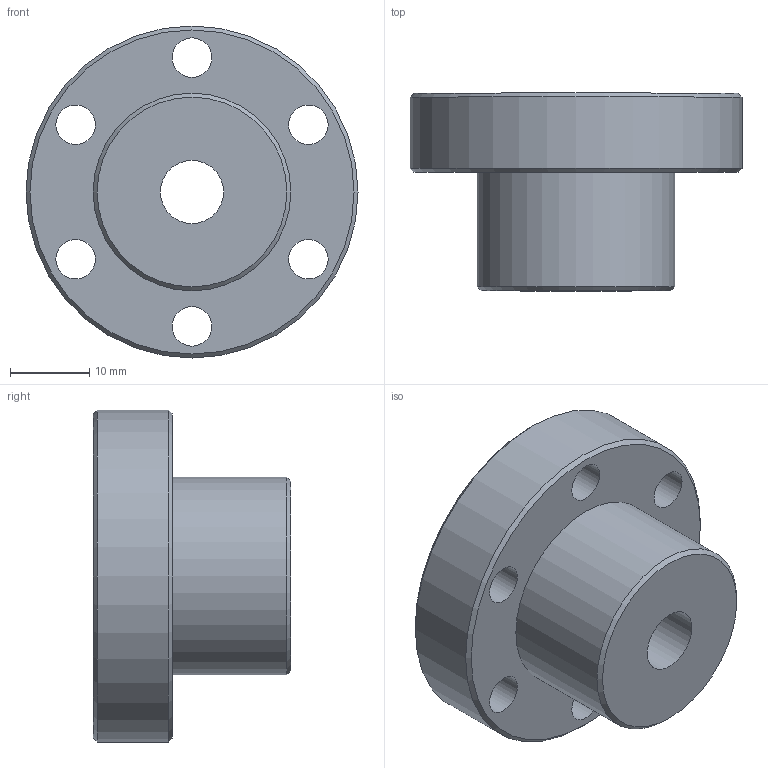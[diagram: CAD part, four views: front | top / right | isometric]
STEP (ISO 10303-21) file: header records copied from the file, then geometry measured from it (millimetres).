
FILE_DESCRIPTION(('FreeCAD Model'),'2;1');
FILE_NAME('Open CASCADE Shape Model','2021-05-04T13:21:52',('Author'),( ''),'Open CASCADE STEP processor 7.5','FreeCAD','Unknown');
FILE_SCHEMA(('AUTOMOTIVE_DESIGN { 1 0 10303 214 1 1 1 1 }'));
Length unit declared in the file: millimetre
Products named in the file (1): 1
Bounding box: 42 x 25 x 42 mm (x, y, z)
Volume: 18740.4 mm3; surface area: 6401.8 mm2
Topology: 1 solids, 1 shells, 15 faces, 37 edges, 25 vertices
Faces by surface type: cylinder 9, plane 3, cone 3
Full cylindrical faces by diameter (mm): 5 x6, 8 x1, 25 x1, 42 x1
Entity records: 1090 total; most frequent: CARTESIAN_POINT 164, DIRECTION 156, ORIENTED_EDGE 74, PCURVE 74, DEFINITIONAL_REPRESENTATION 74, LINE 54, VECTOR 54, CIRCLE 45
